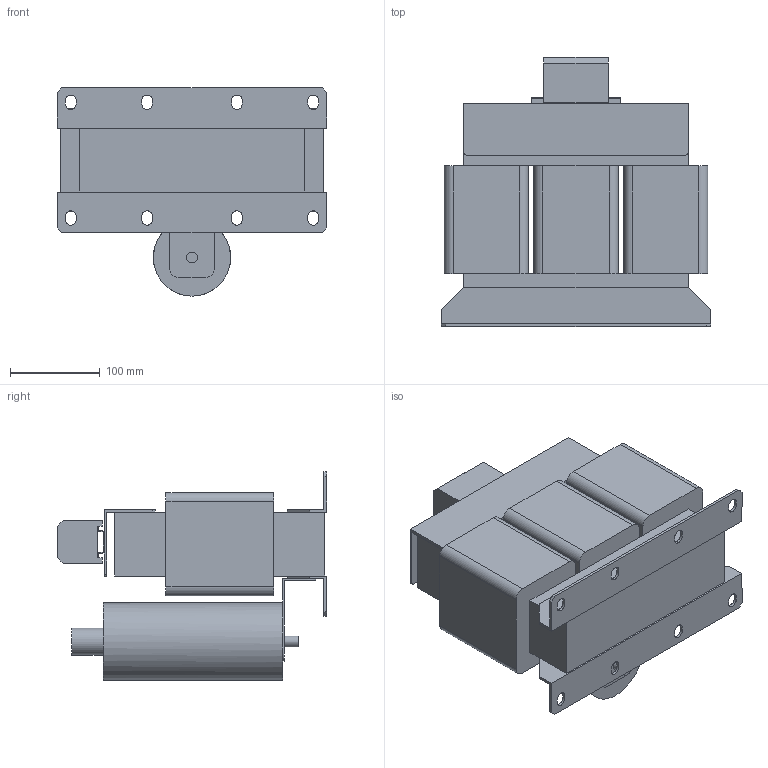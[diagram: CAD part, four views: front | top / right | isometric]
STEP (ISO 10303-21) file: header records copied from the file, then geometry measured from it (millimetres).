
FILE_DESCRIPTION(/* description */ (''),/* implementation_level */ '2;1');
FILE_NAME(/* name */ 'Sin-T4-072.stp',/* time_stamp */ '2025-03-11T16:46:00+04:00',/* author */ ('Лео'),/* organization */ (''),/* preprocessor_version */ 'ST-DEVELOPER v19.2',/* originating_system */ 'Autodesk Inventor 2024',/* authorisation */ '');
FILE_SCHEMA (('AUTOMOTIVE_DESIGN { 1 0 10303 214 3 1 1 }'));
Length unit declared in the file: millimetre
Products named in the file (1): Sin-T4-004
Bounding box: 300 x 300 x 232 mm (x, y, z)
Volume: 7490654.7 mm3; surface area: 628058.1 mm2
Topology: 11 solids, 11 shells, 155 faces, 391 edges, 260 vertices
Faces by surface type: plane 116, cylinder 39
Full cylindrical faces by diameter (mm): 12 x1, 30 x1, 86 x1
Entity records: 4694 total; most frequent: CARTESIAN_POINT 807, DIRECTION 783, ORIENTED_EDGE 782, EDGE_CURVE 391, LINE 311, VECTOR 311, VERTEX_POINT 260, AXIS2_PLACEMENT_3D 236
